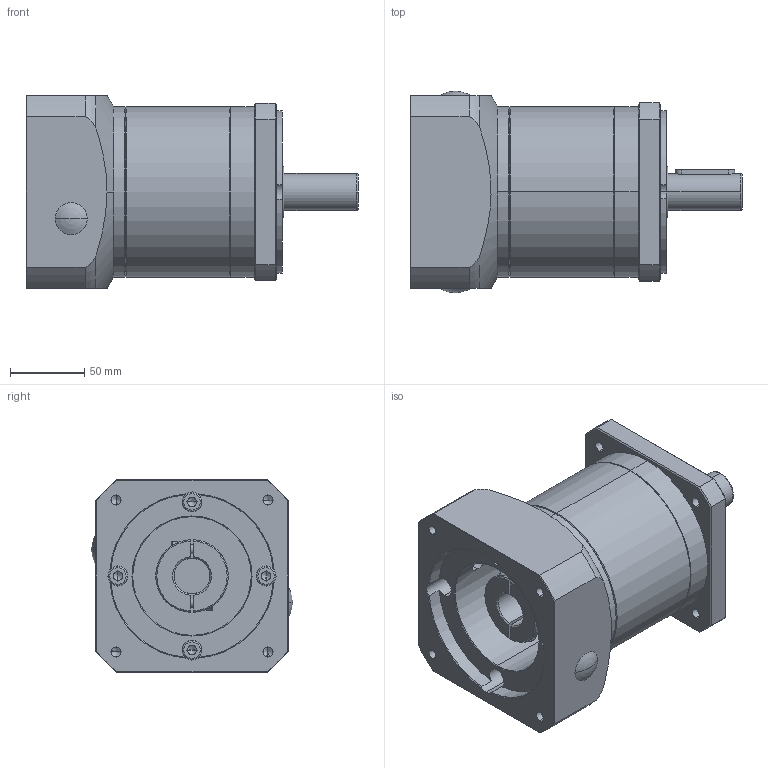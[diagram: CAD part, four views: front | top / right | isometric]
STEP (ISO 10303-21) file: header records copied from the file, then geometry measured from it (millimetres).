
FILE_DESCRIPTION (( 'STEP AP214' ), '1' );
FILE_NAME ('PLF-120-L2-S2-P2 24-110-145-M8.STEP', '2024-09-19T08:31:52', ( '微软用户' ), ( '微软中国' ), 'SwSTEP 2.0', 'SolidWorks 2021', '' );
FILE_SCHEMA (( 'AUTOMOTIVE_DESIGN' ));
Length unit declared in the file: millimetre
Products named in the file (8): hexagon socket head cap screws gb_GB_FASTENER_SCREWS_HSHCS M8X25-N; hexagon socket head cap screws gb_GB_FASTENER_SCREWS_HSHCS M6X20-N; PLF-120薊粣ん-俋倛22; PLF-120-L2-S2-P2 24-110-145-M8; PLF-120黑裔15; PLF-120二级齿圈-外形; PLF-120怀堤傷裔-源; PLF-120输入端盖-外形110-M8-145
Assembly tree (16 placements, depth 2):
  PLF-120-L2-S2-P2 24-110-145-M8
    PLF-120怀堤傷裔-源
    PLF-120二级齿圈-外形
    PLF-120输入端盖-外形110-M8-145
    PLF-120薊粣ん-俋倛22
    hexagon socket head cap screws gb_GB_FASTENER_SCREWS_HSHCS M6X20-N  x2
    PLF-120黑裔15  x2
    hexagon socket head cap screws gb_GB_FASTENER_SCREWS_HSHCS M8X25-N  x8
Bounding box: 224 x 136 x 130 mm (x, y, z)
Volume: 1477252.4 mm3; surface area: 217531.5 mm2
Topology: 17 solids, 17 shells, 526 faces, 1261 edges, 775 vertices
Faces by surface type: plane 234, cylinder 168, cone 90, torus 34
Entity records: 13591 total; most frequent: CARTESIAN_POINT 2378, DIRECTION 1700, ORIENTED_EDGE 1496, EDGE_CURVE 748, AXIS2_PLACEMENT_3D 700, VERTEX_POINT 480, CIRCLE 375, EDGE_LOOP 368
